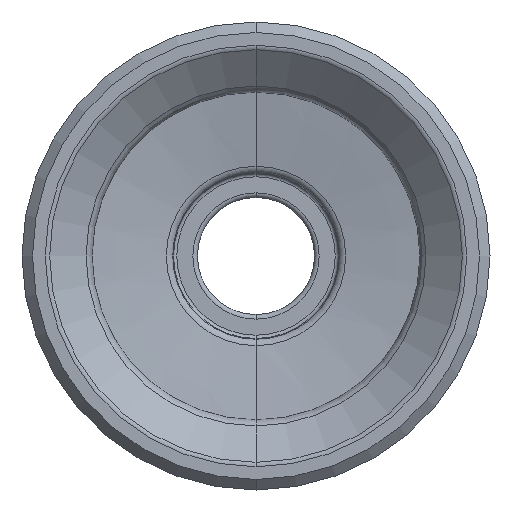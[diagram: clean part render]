
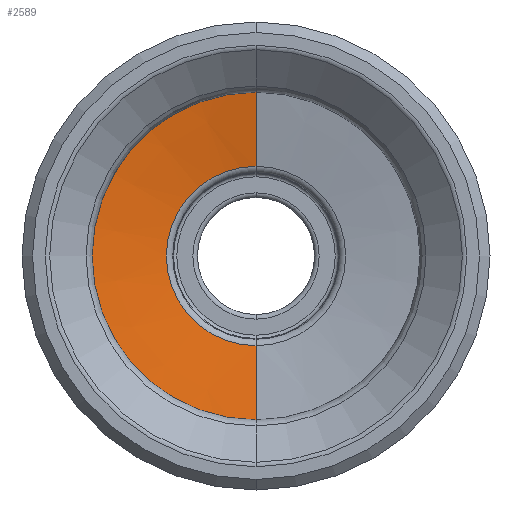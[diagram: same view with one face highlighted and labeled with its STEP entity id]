
A CAD part, front view. The second image highlights one B-rep face of the part: STEP entity #2589.
In plain terms, the highlighted conical face has half-angle 80.564 degrees and reference radius 3.832 mm.
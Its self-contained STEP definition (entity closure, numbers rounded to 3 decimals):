
#29 = EDGE_CURVE ( 'NONE', #2029, #1062, #3280, .T. ) ;
#43 = ORIENTED_EDGE ( 'NONE', *, *, #1007, .F. ) ;
#239 = FACE_OUTER_BOUND ( 'NONE', #4603, .T. ) ;
#386 = CIRCLE ( 'NONE', #4554, 8.337 ) ;
#391 = LINE ( 'NONE', #2349, #2831 ) ;
#526 = DIRECTION ( 'NONE',  ( 0., 0., 1. ) ) ;
#595 = AXIS2_PLACEMENT_3D ( 'NONE', #1827, #4346, #3204 ) ;
#652 = EDGE_CURVE ( 'NONE', #1062, #2982, #391, .T. ) ;
#879 = DIRECTION ( 'NONE',  ( 0., 1., 0. ) ) ;
#1007 = EDGE_CURVE ( 'NONE', #3937, #2982, #386, .T. ) ;
#1062 = VERTEX_POINT ( 'NONE', #3857 ) ;
#1100 = CARTESIAN_POINT ( 'NONE',  ( 0., -5.881, -8.337 ) ) ;
#1451 = LINE ( 'NONE', #2628, #4214 ) ;
#1611 = CARTESIAN_POINT ( 'NONE',  ( 0., -5.881, 8.337 ) ) ;
#1721 = CARTESIAN_POINT ( 'NONE',  ( 0., -5.132, -3.832 ) ) ;
#1827 = CARTESIAN_POINT ( 'NONE',  ( 0., -5.132, 0. ) ) ;
#2029 = VERTEX_POINT ( 'NONE', #1721 ) ;
#2210 = ORIENTED_EDGE ( 'NONE', *, *, #29, .T. ) ;
#2299 = DIRECTION ( 'NONE',  ( 0., -0.164, -0.986 ) ) ;
#2312 = DIRECTION ( 'NONE',  ( 0., 1., 0. ) ) ;
#2341 = CARTESIAN_POINT ( 'NONE',  ( 0., -5.132, 0. ) ) ;
#2349 = CARTESIAN_POINT ( 'NONE',  ( 0., -5.132, 3.832 ) ) ;
#2421 = ORIENTED_EDGE ( 'NONE', *, *, #4067, .F. ) ;
#2589 = ADVANCED_FACE ( 'NONE', ( #239 ), #2611, .F. ) ;
#2611 = CONICAL_SURFACE ( 'NONE', #595, 3.832, 1.406 ) ;
#2628 = CARTESIAN_POINT ( 'NONE',  ( 0., -5.132, -3.832 ) ) ;
#2831 = VECTOR ( 'NONE', #3457, 1000. ) ;
#2947 = AXIS2_PLACEMENT_3D ( 'NONE', #2341, #879, #3051 ) ;
#2982 = VERTEX_POINT ( 'NONE', #1611 ) ;
#3051 = DIRECTION ( 'NONE',  ( 0., 0., 1. ) ) ;
#3098 = CARTESIAN_POINT ( 'NONE',  ( 0., -5.881, 0. ) ) ;
#3204 = DIRECTION ( 'NONE',  ( 0., 0., -1. ) ) ;
#3280 = CIRCLE ( 'NONE', #2947, 3.832 ) ;
#3457 = DIRECTION ( 'NONE',  ( 0., -0.164, 0.986 ) ) ;
#3491 = ORIENTED_EDGE ( 'NONE', *, *, #652, .T. ) ;
#3857 = CARTESIAN_POINT ( 'NONE',  ( 0., -5.132, 3.832 ) ) ;
#3937 = VERTEX_POINT ( 'NONE', #1100 ) ;
#4067 = EDGE_CURVE ( 'NONE', #2029, #3937, #1451, .T. ) ;
#4214 = VECTOR ( 'NONE', #2299, 1000. ) ;
#4346 = DIRECTION ( 'NONE',  ( 0., -1., 0. ) ) ;
#4554 = AXIS2_PLACEMENT_3D ( 'NONE', #3098, #2312, #526 ) ;
#4603 = EDGE_LOOP ( 'NONE', ( #2210, #3491, #43, #2421 ) ) ;
